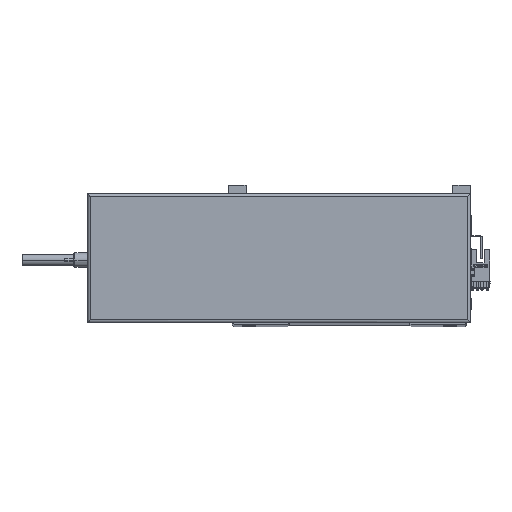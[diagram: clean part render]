
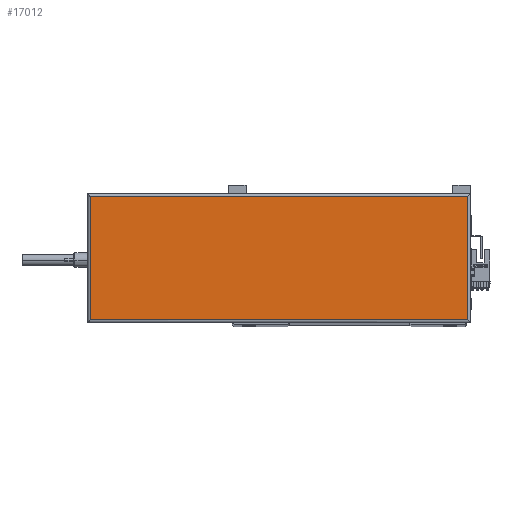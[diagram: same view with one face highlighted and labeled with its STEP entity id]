
A CAD part, top view. The second image highlights one B-rep face of the part: STEP entity #17012.
In plain terms, the highlighted planar face has unit normal (0, 0, 1).
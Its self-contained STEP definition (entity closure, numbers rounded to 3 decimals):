
#2104 = CARTESIAN_POINT ( 'NONE',  ( 0., 88., 44.8 ) ) ;
#3933 = DIRECTION ( 'NONE',  ( 1., 0., 0. ) ) ;
#6371 = CARTESIAN_POINT ( 'NONE',  ( 267., 2., 44.8 ) ) ;
#6710 = LINE ( 'NONE', #2104, #18559 ) ;
#9249 = EDGE_LOOP ( 'NONE', ( #37909, #20176, #13490, #41818 ) ) ;
#9738 = LINE ( 'NONE', #12996, #44764 ) ;
#11812 = DIRECTION ( 'NONE',  ( 0., 0., 1. ) ) ;
#11884 = CARTESIAN_POINT ( 'NONE',  ( 265., 2., 44.8 ) ) ;
#11987 = PLANE ( 'NONE',  #34801 ) ;
#12996 = CARTESIAN_POINT ( 'NONE',  ( 2., 0., 44.8 ) ) ;
#13408 = EDGE_CURVE ( 'NONE', #16868, #19538, #9738, .T. ) ;
#13490 = ORIENTED_EDGE ( 'NONE', *, *, #13408, .T. ) ;
#14113 = CARTESIAN_POINT ( 'NONE',  ( 2., 88., 44.8 ) ) ;
#15619 = CARTESIAN_POINT ( 'NONE',  ( 133.5, 45., 44.8 ) ) ;
#16868 = VERTEX_POINT ( 'NONE', #14113 ) ;
#17012 = ADVANCED_FACE ( 'NONE', ( #36651 ), #11987, .T. ) ;
#17520 = EDGE_CURVE ( 'NONE', #19538, #36523, #29731, .T. ) ;
#18559 = VECTOR ( 'NONE', #34227, 1000. ) ;
#19538 = VERTEX_POINT ( 'NONE', #30677 ) ;
#20176 = ORIENTED_EDGE ( 'NONE', *, *, #37379, .T. ) ;
#21358 = DIRECTION ( 'NONE',  ( 0., -1., 0. ) ) ;
#21449 = LINE ( 'NONE', #25540, #22045 ) ;
#22045 = VECTOR ( 'NONE', #22174, 1000. ) ;
#22174 = DIRECTION ( 'NONE',  ( 0., 1., 0. ) ) ;
#22809 = VECTOR ( 'NONE', #34136, 1000. ) ;
#25540 = CARTESIAN_POINT ( 'NONE',  ( 265., 90., 44.8 ) ) ;
#29731 = LINE ( 'NONE', #6371, #22809 ) ;
#30677 = CARTESIAN_POINT ( 'NONE',  ( 2., 2., 44.8 ) ) ;
#33236 = CARTESIAN_POINT ( 'NONE',  ( 265., 88., 44.8 ) ) ;
#34136 = DIRECTION ( 'NONE',  ( 1., 0., 0. ) ) ;
#34227 = DIRECTION ( 'NONE',  ( -1., 0., 0. ) ) ;
#34801 = AXIS2_PLACEMENT_3D ( 'NONE', #15619, #11812, #3933 ) ;
#36523 = VERTEX_POINT ( 'NONE', #11884 ) ;
#36651 = FACE_OUTER_BOUND ( 'NONE', #9249, .T. ) ;
#37379 = EDGE_CURVE ( 'NONE', #48449, #16868, #6710, .T. ) ;
#37909 = ORIENTED_EDGE ( 'NONE', *, *, #49226, .T. ) ;
#41818 = ORIENTED_EDGE ( 'NONE', *, *, #17520, .T. ) ;
#44764 = VECTOR ( 'NONE', #21358, 1000. ) ;
#48449 = VERTEX_POINT ( 'NONE', #33236 ) ;
#49226 = EDGE_CURVE ( 'NONE', #36523, #48449, #21449, .T. ) ;
